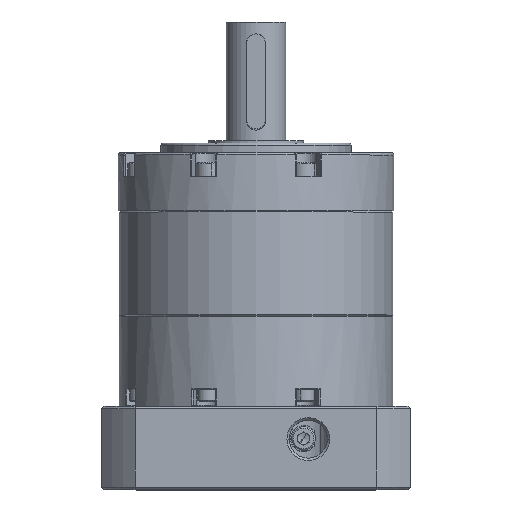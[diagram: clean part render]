
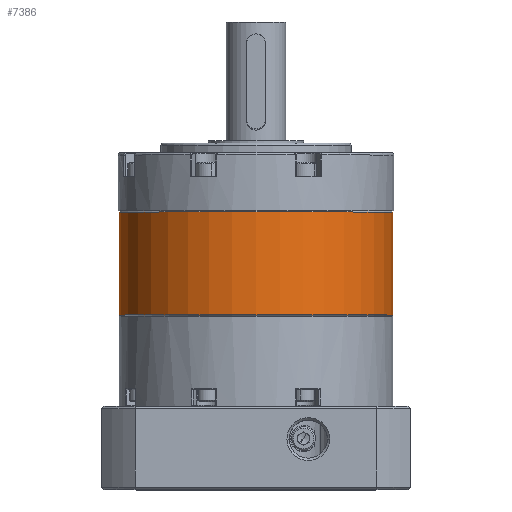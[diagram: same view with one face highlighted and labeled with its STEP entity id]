
A CAD part, top view. The second image highlights one B-rep face of the part: STEP entity #7386.
In plain terms, the highlighted cylindrical face has radius 57.5 mm (diameter 115 mm), a partial arc.
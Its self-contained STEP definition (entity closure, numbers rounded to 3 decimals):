
#475 = FACE_OUTER_BOUND ( 'NONE', #7387, .T. ) ;
#484 = DIRECTION ( 'NONE',  ( 0., 0., 1. ) ) ;
#489 = DIRECTION ( 'NONE',  ( 0., 1., 0. ) ) ;
#503 = CARTESIAN_POINT ( 'NONE',  ( 0., 43.8, 0. ) ) ;
#516 = AXIS2_PLACEMENT_3D ( 'NONE', #503, #489, #484 ) ;
#525 = CIRCLE ( 'NONE', #516, 57.5 ) ;
#650 = DIRECTION ( 'NONE',  ( 0., 0., 1. ) ) ;
#661 = CIRCLE ( 'NONE', #677, 57.5 ) ;
#664 = AXIS2_PLACEMENT_3D ( 'NONE', #694, #693, #650 ) ;
#670 = DIRECTION ( 'NONE',  ( 0., 0., 1. ) ) ;
#671 = DIRECTION ( 'NONE',  ( 0., 1., 0. ) ) ;
#677 = AXIS2_PLACEMENT_3D ( 'NONE', #681, #671, #670 ) ;
#681 = CARTESIAN_POINT ( 'NONE',  ( 0., 0.5, 0. ) ) ;
#691 = CYLINDRICAL_SURFACE ( 'NONE', #664, 57.5 ) ;
#693 = DIRECTION ( 'NONE',  ( 0., 1., 0. ) ) ;
#694 = CARTESIAN_POINT ( 'NONE',  ( 0., 76.967, 0. ) ) ;
#2698 = LINE ( 'NONE', #2758, #2757 ) ;
#2746 = CARTESIAN_POINT ( 'NONE',  ( 0., 0.5, -57.5 ) ) ;
#2756 = DIRECTION ( 'NONE',  ( 0., 1., 0. ) ) ;
#2757 = VECTOR ( 'NONE', #2756, 1000. ) ;
#2758 = CARTESIAN_POINT ( 'NONE',  ( 0., 76.967, 57.5 ) ) ;
#2873 = CARTESIAN_POINT ( 'NONE',  ( 0., 0.5, 57.5 ) ) ;
#2893 = DIRECTION ( 'NONE',  ( 0., 1., 0. ) ) ;
#2894 = VECTOR ( 'NONE', #2893, 1000. ) ;
#2895 = CARTESIAN_POINT ( 'NONE',  ( 0., 76.967, -57.5 ) ) ;
#2896 = LINE ( 'NONE', #2895, #2894 ) ;
#7318 = ORIENTED_EDGE ( 'NONE', *, *, #14329, .F. ) ;
#7373 = EDGE_CURVE ( 'NONE', #9442, #9276, #525, .T. ) ;
#7374 = ORIENTED_EDGE ( 'NONE', *, *, #7373, .F. ) ;
#7382 = ORIENTED_EDGE ( 'NONE', *, *, #14107, .T. ) ;
#7385 = ORIENTED_EDGE ( 'NONE', *, *, #7391, .T. ) ;
#7386 = ADVANCED_FACE ( 'NONE', ( #475 ), #691, .T. ) ;
#7387 = EDGE_LOOP ( 'NONE', ( #7318, #7385, #7382, #7374 ) ) ;
#7391 = EDGE_CURVE ( 'NONE', #14126, #14300, #661, .T. ) ;
#9276 = VERTEX_POINT ( 'NONE', #13468 ) ;
#9442 = VERTEX_POINT ( 'NONE', #14761 ) ;
#13468 = CARTESIAN_POINT ( 'NONE',  ( 0., 43.8, 57.5 ) ) ;
#14107 = EDGE_CURVE ( 'NONE', #14300, #9276, #2698, .T. ) ;
#14126 = VERTEX_POINT ( 'NONE', #2746 ) ;
#14300 = VERTEX_POINT ( 'NONE', #2873 ) ;
#14329 = EDGE_CURVE ( 'NONE', #14126, #9442, #2896, .T. ) ;
#14761 = CARTESIAN_POINT ( 'NONE',  ( 0., 43.8, -57.5 ) ) ;
